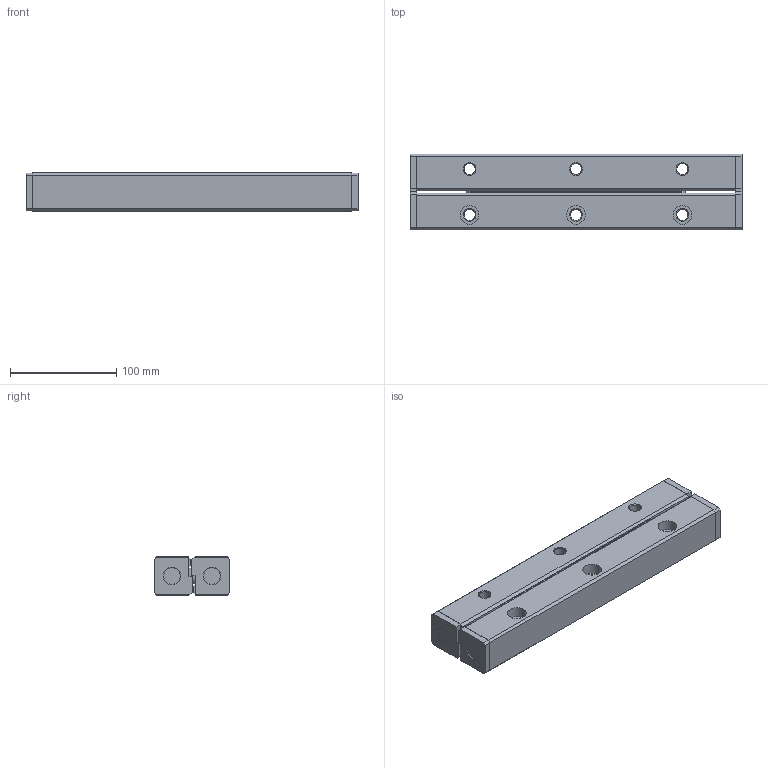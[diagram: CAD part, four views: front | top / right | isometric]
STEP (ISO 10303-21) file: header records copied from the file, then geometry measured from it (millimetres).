
FILE_DESCRIPTION(/* description */ ('STEP AP214'),/* implementation_level */ '2;1');
FILE_NAME(/* name */ 'VB15-300Hx8Z(0)',/* time_stamp */ '2024-09-19T10:05:19+02:00',/* author */ ('License CC BY-ND 4.0'),/* organization */ ('CADENAS'),/* preprocessor_version */ 'ST-DEVELOPER v19.3',/* originating_system */ 'PARTsolutions',/* authorisation */ ' ');
FILE_SCHEMA (('AUTOMOTIVE_DESIGN {1 0 10303 214 3 1 1}'));
Length unit declared in the file: millimetre
Products named in the file (3): VB15-300Hx8Z(0); VR15-300*8Z Ball guide; VR15-300*8Z Ball cage
Assembly tree (3 placements, depth 2):
  VB15-300Hx8Z(0)
    VR15-300*8Z Ball guide  x2
    VR15-300*8Z Ball cage
Bounding box: 312 x 71 x 36 mm (x, y, z)
Volume: 703688.9 mm3; surface area: 117771 mm2
Topology: 3 solids, 3 shells, 142 faces, 318 edges, 208 vertices
Faces by surface type: plane 98, cone 16, sphere 16, cylinder 12
Full cylindrical faces by diameter (mm): 10.5 x6, 17.5 x6
Entity records: 2282 total; most frequent: DIRECTION 379, CARTESIAN_POINT 373, ORIENTED_EDGE 330, EDGE_CURVE 165, LINE 127, VECTOR 127, AXIS2_PLACEMENT_3D 126, EDGE_LOOP 125
